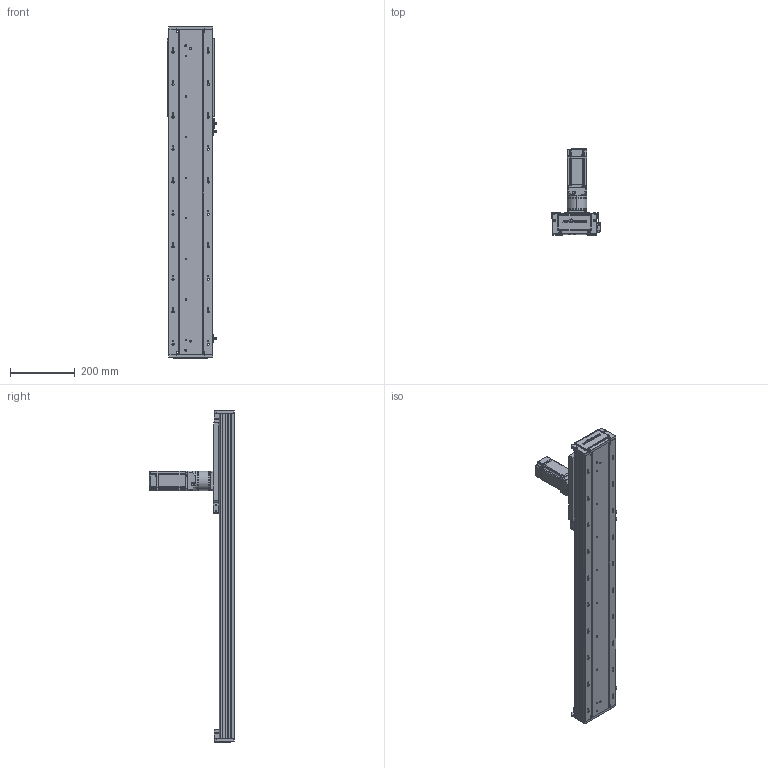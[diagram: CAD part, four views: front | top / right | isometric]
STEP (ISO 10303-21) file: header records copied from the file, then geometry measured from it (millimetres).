
FILE_DESCRIPTION (( 'STEP AP203' ), '1' );
FILE_NAME ('RY140-C-250-UK.SLDASM_650.step', '2022-03-12T01:58:26', ( '' ), ( '' ), 'SwSTEP 2.0', 'SolidWorks 2016', '' );
FILE_SCHEMA (( 'CONFIG_CONTROL_DESIGN' ));
Length unit declared in the file: millimetre
Products named in the file (12): 覜茼ん672; 絳寢賑輸EGH15; 140蚥薯蝶輸; RY140-C-250-UK.SLDASM_650; RY140-300齿条模组型材底座_650; RY140-絳寢EGH15-300-MK_650; 60ZDF珨撰俋倛芞T1 200W M4; 15; RY120外置感应片(140共用）; RY140-喘沭賑輸; RY140-喘沭裔啣; RY140-喘謫萇儂覃誹啣
Assembly tree (21 placements, depth 2):
  RY140-C-250-UK.SLDASM_650
    RY140-300齿条模组型材底座_650
    RY140-絳寢EGH15-300-MK_650  x2
    絳寢賑輸EGH15  x6
    RY140-喘沭裔啣  x2
    覜茼ん672  x3
    RY140-喘沭賑輸
    RY120外置感应片(140共用）
    RY140-喘謫萇儂覃誹啣
    140蚥薯蝶輸  x2
    60ZDF珨撰俋倛芞T1 200W M4
    15
Bounding box: 153.7 x 263.5 x 1022 mm (x, y, z)
Volume: 4200604.6 mm3; surface area: 1063937.9 mm2
Topology: 21 solids, 21 shells, 3232 faces, 8532 edges, 5528 vertices
Faces by surface type: plane 1628, cylinder 1342, cone 216, bspline 46
Entity records: 70655 total; most frequent: CARTESIAN_POINT 15061, DIRECTION 11323, ORIENTED_EDGE 11206, EDGE_CURVE 5603, AXIS2_PLACEMENT_3D 3995, VERTEX_POINT 3665, VECTOR 3333, LINE 3333
